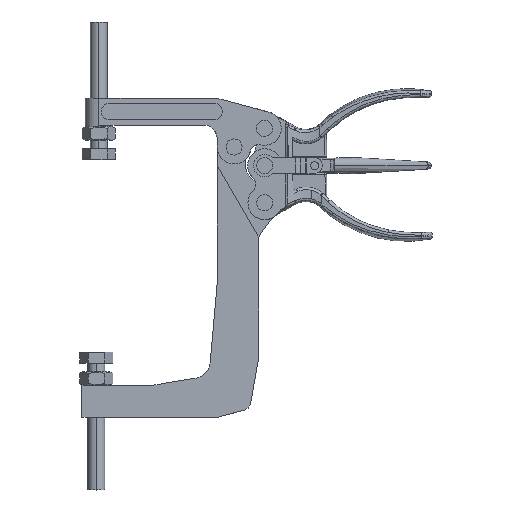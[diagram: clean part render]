
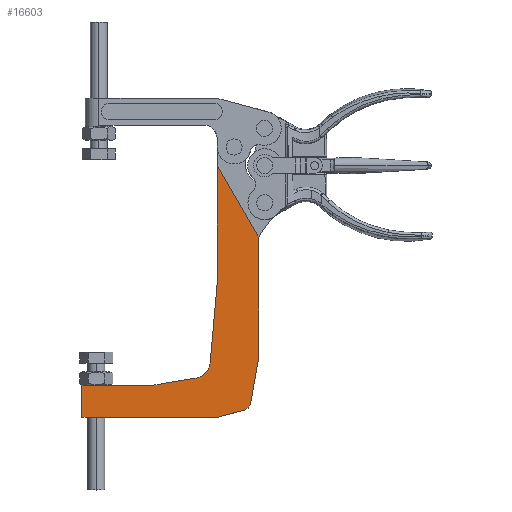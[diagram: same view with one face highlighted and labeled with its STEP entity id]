
A CAD part, top view. The second image highlights one B-rep face of the part: STEP entity #16603.
In plain terms, the highlighted planar face has unit normal (0, 0, 1).
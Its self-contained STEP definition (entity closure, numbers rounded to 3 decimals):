
#279 = VERTEX_POINT ( 'NONE', #10772 ) ;
#464 = VERTEX_POINT ( 'NONE', #10953 ) ;
#591 = ORIENTED_EDGE ( 'NONE', *, *, #5750, .T. ) ;
#730 = DIRECTION ( 'NONE',  ( 0., 0., 1. ) ) ;
#815 = ORIENTED_EDGE ( 'NONE', *, *, #13081, .T. ) ;
#1112 = ORIENTED_EDGE ( 'NONE', *, *, #10052, .T. ) ;
#1537 = LINE ( 'NONE', #5078, #15880 ) ;
#1718 = CARTESIAN_POINT ( 'NONE',  ( -28.506, -122.651, 0. ) ) ;
#1729 = EDGE_CURVE ( 'NONE', #8100, #4609, #3868, .T. ) ;
#1791 = VERTEX_POINT ( 'NONE', #9161 ) ;
#1864 = CARTESIAN_POINT ( 'NONE',  ( -27.848, -48.391, 0. ) ) ;
#1918 = CIRCLE ( 'NONE', #4264, 10. ) ;
#1962 = DIRECTION ( 'NONE',  ( 0., 0., 1. ) ) ;
#2024 = DIRECTION ( 'NONE',  ( 1., 0., 0. ) ) ;
#2144 = AXIS2_PLACEMENT_3D ( 'NONE', #14150, #6298, #15478 ) ;
#2197 = EDGE_CURVE ( 'NONE', #4609, #5025, #10219, .T. ) ;
#2298 = CARTESIAN_POINT ( 'NONE',  ( -41.826, -104.572, 0. ) ) ;
#2445 = VECTOR ( 'NONE', #2024, 1000. ) ;
#2533 = DIRECTION ( 'NONE',  ( 0., 1., 0. ) ) ;
#2634 = LINE ( 'NONE', #16408, #12683 ) ;
#2688 = ORIENTED_EDGE ( 'NONE', *, *, #2197, .T. ) ;
#2777 = CARTESIAN_POINT ( 'NONE',  ( -27.848, 21.349, 0. ) ) ;
#3012 = CARTESIAN_POINT ( 'NONE',  ( -3.101, -21.514, 0. ) ) ;
#3025 = DIRECTION ( 'NONE',  ( 1., 0., 0. ) ) ;
#3081 = CARTESIAN_POINT ( 'NONE',  ( -27.848, 21.349, 0. ) ) ;
#3128 = ORIENTED_EDGE ( 'NONE', *, *, #4443, .T. ) ;
#3203 = VECTOR ( 'NONE', #3681, 1000. ) ;
#3273 = LINE ( 'NONE', #7481, #6347 ) ;
#3469 = VERTEX_POINT ( 'NONE', #3012 ) ;
#3473 = VECTOR ( 'NONE', #14069, 1000. ) ;
#3569 = CARTESIAN_POINT ( 'NONE',  ( -3.348, -92.651, 0. ) ) ;
#3619 = LINE ( 'NONE', #15497, #3203 ) ;
#3681 = DIRECTION ( 'NONE',  ( -0.986, -0.167, 0. ) ) ;
#3868 = LINE ( 'NONE', #6595, #3473 ) ;
#4035 = CARTESIAN_POINT ( 'NONE',  ( -107.848, -108.651, 0. ) ) ;
#4075 = VERTEX_POINT ( 'NONE', #8569 ) ;
#4264 = AXIS2_PLACEMENT_3D ( 'NONE', #5093, #14269, #6416 ) ;
#4385 = DIRECTION ( 'NONE',  ( 0.5, -0.866, 0. ) ) ;
#4443 = EDGE_CURVE ( 'NONE', #5025, #4075, #13737, .T. ) ;
#4458 = VERTEX_POINT ( 'NONE', #9542 ) ;
#4517 = PLANE ( 'NONE',  #6074 ) ;
#4609 = VERTEX_POINT ( 'NONE', #16613 ) ;
#4834 = VECTOR ( 'NONE', #4385, 1000. ) ;
#4836 = DIRECTION ( 'NONE',  ( 0.966, 0.259, 0. ) ) ;
#4986 = VECTOR ( 'NONE', #14826, 1000. ) ;
#5025 = VERTEX_POINT ( 'NONE', #5822 ) ;
#5078 = CARTESIAN_POINT ( 'NONE',  ( -27.848, -48.391, 0. ) ) ;
#5093 = CARTESIAN_POINT ( 'NONE',  ( -41.927, -94.572, 0. ) ) ;
#5214 = DIRECTION ( 'NONE',  ( -1., 0., 0. ) ) ;
#5641 = VECTOR ( 'NONE', #5214, 1000. ) ;
#5642 = CARTESIAN_POINT ( 'NONE',  ( -27.848, -48.391, 0. ) ) ;
#5750 = EDGE_CURVE ( 'NONE', #1791, #464, #10011, .T. ) ;
#5759 = EDGE_CURVE ( 'NONE', #464, #9727, #2634, .T. ) ;
#5822 = CARTESIAN_POINT ( 'NONE',  ( -28.506, -127.651, 0. ) ) ;
#5899 = CARTESIAN_POINT ( 'NONE',  ( -28.506, -127.651, 0. ) ) ;
#6074 = AXIS2_PLACEMENT_3D ( 'NONE', #9776, #1962, #11105 ) ;
#6143 = ORIENTED_EDGE ( 'NONE', *, *, #15418, .F. ) ;
#6230 = ORIENTED_EDGE ( 'NONE', *, *, #1729, .T. ) ;
#6298 = DIRECTION ( 'NONE',  ( 0., 0., -1. ) ) ;
#6347 = VECTOR ( 'NONE', #4836, 1000. ) ;
#6416 = DIRECTION ( 'NONE',  ( 1., 0., 0. ) ) ;
#6443 = EDGE_CURVE ( 'NONE', #4075, #1791, #3273, .T. ) ;
#6595 = CARTESIAN_POINT ( 'NONE',  ( -107.848, -108.651, 0. ) ) ;
#6596 = AXIS2_PLACEMENT_3D ( 'NONE', #8561, #730, #9863 ) ;
#7481 = CARTESIAN_POINT ( 'NONE',  ( -11.687, -123.321, 0. ) ) ;
#7665 = LINE ( 'NONE', #5642, #4986 ) ;
#7914 = AXIS2_PLACEMENT_3D ( 'NONE', #1718, #10870, #3025 ) ;
#7968 = EDGE_CURVE ( 'NONE', #9727, #12882, #8774, .T. ) ;
#8100 = VERTEX_POINT ( 'NONE', #4035 ) ;
#8358 = VECTOR ( 'NONE', #2533, 1000. ) ;
#8561 = CARTESIAN_POINT ( 'NONE',  ( -12.981, -118.491, 0. ) ) ;
#8569 = CARTESIAN_POINT ( 'NONE',  ( -27.212, -127.481, 0. ) ) ;
#8774 = LINE ( 'NONE', #11690, #8358 ) ;
#8916 = CIRCLE ( 'NONE', #2144, 10. ) ;
#9116 = LINE ( 'NONE', #11789, #5641 ) ;
#9161 = CARTESIAN_POINT ( 'NONE',  ( -11.687, -123.321, 0. ) ) ;
#9542 = CARTESIAN_POINT ( 'NONE',  ( -65.848, -108.651, 0. ) ) ;
#9727 = VERTEX_POINT ( 'NONE', #3569 ) ;
#9776 = CARTESIAN_POINT ( 'NONE',  ( -12.981, -118.491, 0. ) ) ;
#9863 = DIRECTION ( 'NONE',  ( 1., 0., 0. ) ) ;
#10011 = CIRCLE ( 'NONE', #6596, 5. ) ;
#10052 = EDGE_CURVE ( 'NONE', #12882, #3469, #8916, .T. ) ;
#10219 = LINE ( 'NONE', #5899, #2445 ) ;
#10772 = CARTESIAN_POINT ( 'NONE',  ( -31.965, -95.444, 0. ) ) ;
#10870 = DIRECTION ( 'NONE',  ( 0., 0., 1. ) ) ;
#10953 = CARTESIAN_POINT ( 'NONE',  ( -8.057, -119.359, 0. ) ) ;
#11091 = VERTEX_POINT ( 'NONE', #1864 ) ;
#11105 = DIRECTION ( 'NONE',  ( 1., 0., 0. ) ) ;
#11367 = EDGE_CURVE ( 'NONE', #11091, #279, #1537, .T. ) ;
#11386 = ORIENTED_EDGE ( 'NONE', *, *, #11367, .T. ) ;
#11690 = CARTESIAN_POINT ( 'NONE',  ( -3.348, -92.651, 0. ) ) ;
#11724 = CARTESIAN_POINT ( 'NONE',  ( -3.348, -23.724, 0. ) ) ;
#11789 = CARTESIAN_POINT ( 'NONE',  ( -65.848, -108.651, 0. ) ) ;
#11792 = LINE ( 'NONE', #3081, #4834 ) ;
#12189 = ORIENTED_EDGE ( 'NONE', *, *, #6443, .T. ) ;
#12440 = ORIENTED_EDGE ( 'NONE', *, *, #15322, .T. ) ;
#12536 = ORIENTED_EDGE ( 'NONE', *, *, #13873, .T. ) ;
#12683 = VECTOR ( 'NONE', #13770, 1000. ) ;
#12882 = VERTEX_POINT ( 'NONE', #11724 ) ;
#12984 = VERTEX_POINT ( 'NONE', #2777 ) ;
#13081 = EDGE_CURVE ( 'NONE', #12984, #11091, #7665, .T. ) ;
#13737 = CIRCLE ( 'NONE', #7914, 5. ) ;
#13770 = DIRECTION ( 'NONE',  ( 0.174, 0.985, 0. ) ) ;
#13807 = ORIENTED_EDGE ( 'NONE', *, *, #7968, .T. ) ;
#13820 = EDGE_LOOP ( 'NONE', ( #1112, #6143, #815, #11386, #12536, #14337, #12440, #6230, #2688, #3128, #12189, #591, #15822, #13807 ) ) ;
#13873 = EDGE_CURVE ( 'NONE', #279, #16835, #1918, .T. ) ;
#14069 = DIRECTION ( 'NONE',  ( 0., -1., 0. ) ) ;
#14150 = CARTESIAN_POINT ( 'NONE',  ( 6.652, -23.724, 0. ) ) ;
#14269 = DIRECTION ( 'NONE',  ( 0., 0., -1. ) ) ;
#14337 = ORIENTED_EDGE ( 'NONE', *, *, #14972, .T. ) ;
#14826 = DIRECTION ( 'NONE',  ( 0., -1., 0. ) ) ;
#14886 = FACE_OUTER_BOUND ( 'NONE', #13820, .T. ) ;
#14972 = EDGE_CURVE ( 'NONE', #16835, #4458, #3619, .T. ) ;
#15322 = EDGE_CURVE ( 'NONE', #4458, #8100, #9116, .T. ) ;
#15418 = EDGE_CURVE ( 'NONE', #12984, #3469, #11792, .T. ) ;
#15478 = DIRECTION ( 'NONE',  ( 1., 0., 0. ) ) ;
#15497 = CARTESIAN_POINT ( 'NONE',  ( -65.848, -108.651, 0. ) ) ;
#15524 = DIRECTION ( 'NONE',  ( -0.087, -0.996, 0. ) ) ;
#15822 = ORIENTED_EDGE ( 'NONE', *, *, #5759, .T. ) ;
#15880 = VECTOR ( 'NONE', #15524, 1000. ) ;
#16408 = CARTESIAN_POINT ( 'NONE',  ( -3.348, -92.651, 0. ) ) ;
#16603 = ADVANCED_FACE ( 'NONE', ( #14886 ), #4517, .T. ) ;
#16613 = CARTESIAN_POINT ( 'NONE',  ( -107.848, -127.651, 0. ) ) ;
#16835 = VERTEX_POINT ( 'NONE', #2298 ) ;
